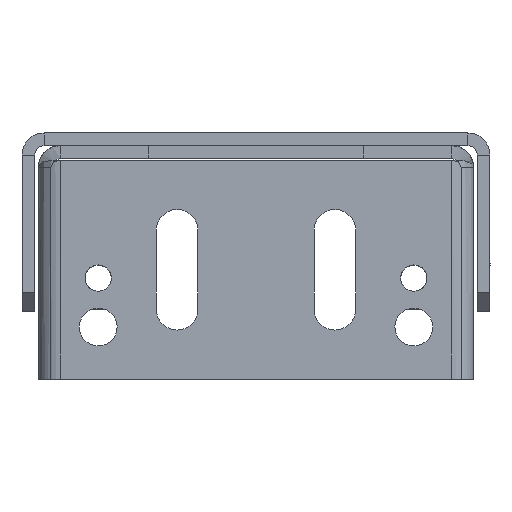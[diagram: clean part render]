
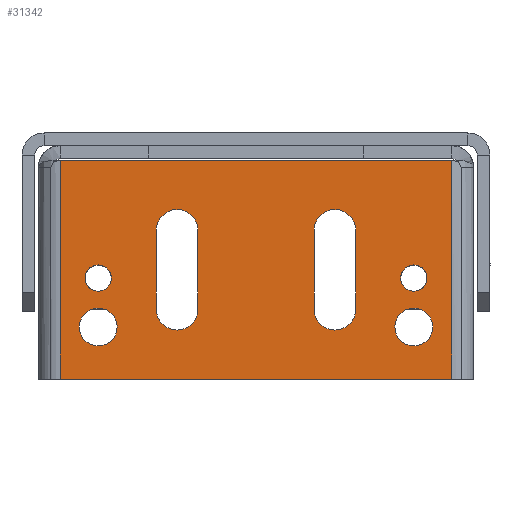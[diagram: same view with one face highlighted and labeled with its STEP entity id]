
A CAD part, left-side view. The second image highlights one B-rep face of the part: STEP entity #31342.
In plain terms, the highlighted planar face has unit normal (-1, 0, 0) as drawn and (0, 0, 1) by its records, which use the part's own axes.
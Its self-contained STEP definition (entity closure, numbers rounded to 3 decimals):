
#31342=ADVANCED_FACE('',(#59818,#59820,#59822,#59824,#59826,#59828,#59830),#59832,
.F.);
#59818=FACE_BOUND('',#59819,.T.);
#59819=EDGE_LOOP('',(#80265,#80266,#80267,#80268));
#59820=FACE_BOUND('',#59821,.T.);
#59821=EDGE_LOOP('',(#80269,#80270,#80271,#80272));
#59822=FACE_BOUND('',#59823,.T.);
#59823=EDGE_LOOP('',(#80273,#80274,#80275,#80276));
#59824=FACE_BOUND('',#59825,.T.);
#59825=EDGE_LOOP('',(#80277));
#59826=FACE_BOUND('',#59827,.T.);
#59827=EDGE_LOOP('',(#80278));
#59828=FACE_BOUND('',#59829,.T.);
#59829=EDGE_LOOP('',(#80279));
#59830=FACE_BOUND('',#59831,.T.);
#59831=EDGE_LOOP('',(#80280));
#59832=PLANE('',#59833);
#59833=AXIS2_PLACEMENT_3D('',#59834,#59835,#59836);
#59834=CARTESIAN_POINT('',(18.5,34.5,0.));
#59835=DIRECTION('',(0.,0.,-1.));
#59836=DIRECTION('',(-1.,0.,0.));
#80265=ORIENTED_EDGE('',*,*,#90409,.F.);
#80266=ORIENTED_EDGE('',*,*,#90410,.T.);
#80267=ORIENTED_EDGE('',*,*,#90411,.T.);
#80268=ORIENTED_EDGE('',*,*,#90412,.F.);
#80269=ORIENTED_EDGE('',*,*,#90413,.F.);
#80270=ORIENTED_EDGE('',*,*,#90414,.F.);
#80271=ORIENTED_EDGE('',*,*,#90415,.F.);
#80272=ORIENTED_EDGE('',*,*,#90314,.F.);
#80273=ORIENTED_EDGE('',*,*,#90416,.F.);
#80274=ORIENTED_EDGE('',*,*,#90417,.F.);
#80275=ORIENTED_EDGE('',*,*,#90418,.F.);
#80276=ORIENTED_EDGE('',*,*,#90318,.F.);
#80277=ORIENTED_EDGE('',*,*,#90353,.F.);
#80278=ORIENTED_EDGE('',*,*,#90355,.F.);
#80279=ORIENTED_EDGE('',*,*,#90357,.F.);
#80280=ORIENTED_EDGE('',*,*,#90359,.F.);
#90314=EDGE_CURVE('',#107186,#107188,#107189,.T.);
#90318=EDGE_CURVE('',#107194,#107196,#107197,.T.);
#90353=EDGE_CURVE('',#107261,#107261,#107262,.T.);
#90355=EDGE_CURVE('',#107265,#107265,#107266,.T.);
#90357=EDGE_CURVE('',#107269,#107269,#107270,.T.);
#90359=EDGE_CURVE('',#107273,#107273,#107274,.T.);
#90409=EDGE_CURVE('',#107363,#107364,#107365,.T.);
#90410=EDGE_CURVE('',#107363,#107366,#107367,.T.);
#90411=EDGE_CURVE('',#107366,#107368,#107369,.T.);
#90412=EDGE_CURVE('',#107364,#107368,#107370,.T.);
#90413=EDGE_CURVE('',#107371,#107186,#107372,.T.);
#90414=EDGE_CURVE('',#107373,#107371,#107374,.T.);
#90415=EDGE_CURVE('',#107188,#107373,#107375,.T.);
#90416=EDGE_CURVE('',#107376,#107194,#107377,.T.);
#90417=EDGE_CURVE('',#107378,#107376,#107379,.T.);
#90418=EDGE_CURVE('',#107196,#107378,#107380,.T.);
#107186=VERTEX_POINT('',#147718);
#107188=VERTEX_POINT('',#147722);
#107189=CIRCLE('',#147723,3.3);
#107194=VERTEX_POINT('',#147736);
#107196=VERTEX_POINT('',#147740);
#107197=CIRCLE('',#147741,3.3);
#107261=VERTEX_POINT('',#147905);
#107262=CIRCLE('',#147906,2.1);
#107265=VERTEX_POINT('',#147915);
#107266=CIRCLE('',#147916,3.);
#107269=VERTEX_POINT('',#147925);
#107270=CIRCLE('',#147926,2.1);
#107273=VERTEX_POINT('',#147935);
#107274=CIRCLE('',#147936,3.);
#107363=VERTEX_POINT('',#148129);
#107364=VERTEX_POINT('',#148130);
#107365=LINE('',#148131,#148132);
#107366=VERTEX_POINT('',#148134);
#107367=LINE('',#148135,#148136);
#107368=VERTEX_POINT('',#148138);
#107369=LINE('',#148139,#148140);
#107370=LINE('',#148142,#148143);
#107371=VERTEX_POINT('',#148145);
#107372=LINE('',#148146,#148147);
#107373=VERTEX_POINT('',#148149);
#107374=CIRCLE('',#148150,3.3);
#107375=LINE('',#148154,#148155);
#107376=VERTEX_POINT('',#148157);
#107377=LINE('',#148158,#148159);
#107378=VERTEX_POINT('',#148161);
#107379=CIRCLE('',#148162,3.3);
#107380=LINE('',#148166,#148167);
#147718=CARTESIAN_POINT('',(5.073,-15.8,0.));
#147722=CARTESIAN_POINT('',(5.073,-9.2,0.));
#147723=AXIS2_PLACEMENT_3D('',#147724,#147725,#147726);
#147724=CARTESIAN_POINT('',(5.073,-12.5,0.));
#147725=DIRECTION('',(0.,0.,1.));
#147726=DIRECTION('',(0.,-1.,0.));
#147736=CARTESIAN_POINT('',(5.073,9.2,0.));
#147740=CARTESIAN_POINT('',(5.073,15.8,0.));
#147741=AXIS2_PLACEMENT_3D('',#147742,#147743,#147744);
#147742=CARTESIAN_POINT('',(5.073,12.5,0.));
#147743=DIRECTION('',(0.,0.,1.));
#147744=DIRECTION('',(0.,-1.,0.));
#147905=CARTESIAN_POINT('',(-0.4,-25.,0.));
#147906=AXIS2_PLACEMENT_3D('',#147907,#147908,#147909);
#147907=CARTESIAN_POINT('',(-2.5,-25.,0.));
#147908=DIRECTION('',(0.,0.,1.));
#147909=DIRECTION('',(-1.,0.,0.));
#147915=CARTESIAN_POINT('',(-7.25,-25.,0.));
#147916=AXIS2_PLACEMENT_3D('',#147917,#147918,#147919);
#147917=CARTESIAN_POINT('',(-10.25,-25.,0.));
#147918=DIRECTION('',(0.,0.,1.));
#147919=DIRECTION('',(-1.,0.,0.));
#147925=CARTESIAN_POINT('',(-0.4,25.,0.));
#147926=AXIS2_PLACEMENT_3D('',#147927,#147928,#147929);
#147927=CARTESIAN_POINT('',(-2.5,25.,0.));
#147928=DIRECTION('',(0.,0.,1.));
#147929=DIRECTION('',(-1.,0.,0.));
#147935=CARTESIAN_POINT('',(-7.25,25.,0.));
#147936=AXIS2_PLACEMENT_3D('',#147937,#147938,#147939);
#147937=CARTESIAN_POINT('',(-10.25,25.,0.));
#147938=DIRECTION('',(0.,0.,1.));
#147939=DIRECTION('',(-1.,0.,0.));
#148129=CARTESIAN_POINT('',(16.146,31.,0.));
#148130=CARTESIAN_POINT('',(16.146,-31.,0.));
#148131=CARTESIAN_POINT('',(16.146,31.,0.));
#148132=VECTOR('',#148133,1.);
#148133=DIRECTION('',(0.,-1.,0.));
#148134=CARTESIAN_POINT('',(-18.5,31.,0.));
#148135=CARTESIAN_POINT('',(16.146,31.,0.));
#148136=VECTOR('',#148137,1.);
#148137=DIRECTION('',(-1.,0.,0.));
#148138=CARTESIAN_POINT('',(-18.5,-31.,0.));
#148139=CARTESIAN_POINT('',(-18.5,31.,0.));
#148140=VECTOR('',#148141,1.);
#148141=DIRECTION('',(0.,-1.,0.));
#148142=CARTESIAN_POINT('',(16.146,-31.,0.));
#148143=VECTOR('',#148144,1.);
#148144=DIRECTION('',(-1.,0.,0.));
#148145=CARTESIAN_POINT('',(-7.427,-15.8,0.));
#148146=CARTESIAN_POINT('',(-7.427,-15.8,0.));
#148147=VECTOR('',#148148,1.);
#148148=DIRECTION('',(1.,0.,0.));
#148149=CARTESIAN_POINT('',(-7.427,-9.2,0.));
#148150=AXIS2_PLACEMENT_3D('',#148151,#148152,#148153);
#148151=CARTESIAN_POINT('',(-7.427,-12.5,0.));
#148152=DIRECTION('',(0.,0.,1.));
#148153=DIRECTION('',(0.,1.,0.));
#148154=CARTESIAN_POINT('',(5.073,-9.2,0.));
#148155=VECTOR('',#148156,1.);
#148156=DIRECTION('',(-1.,0.,0.));
#148157=CARTESIAN_POINT('',(-7.427,9.2,0.));
#148158=CARTESIAN_POINT('',(-7.427,9.2,0.));
#148159=VECTOR('',#148160,1.);
#148160=DIRECTION('',(1.,0.,0.));
#148161=CARTESIAN_POINT('',(-7.427,15.8,0.));
#148162=AXIS2_PLACEMENT_3D('',#148163,#148164,#148165);
#148163=CARTESIAN_POINT('',(-7.427,12.5,0.));
#148164=DIRECTION('',(0.,0.,1.));
#148165=DIRECTION('',(0.,1.,0.));
#148166=CARTESIAN_POINT('',(5.073,15.8,0.));
#148167=VECTOR('',#148168,1.);
#148168=DIRECTION('',(-1.,0.,0.));
